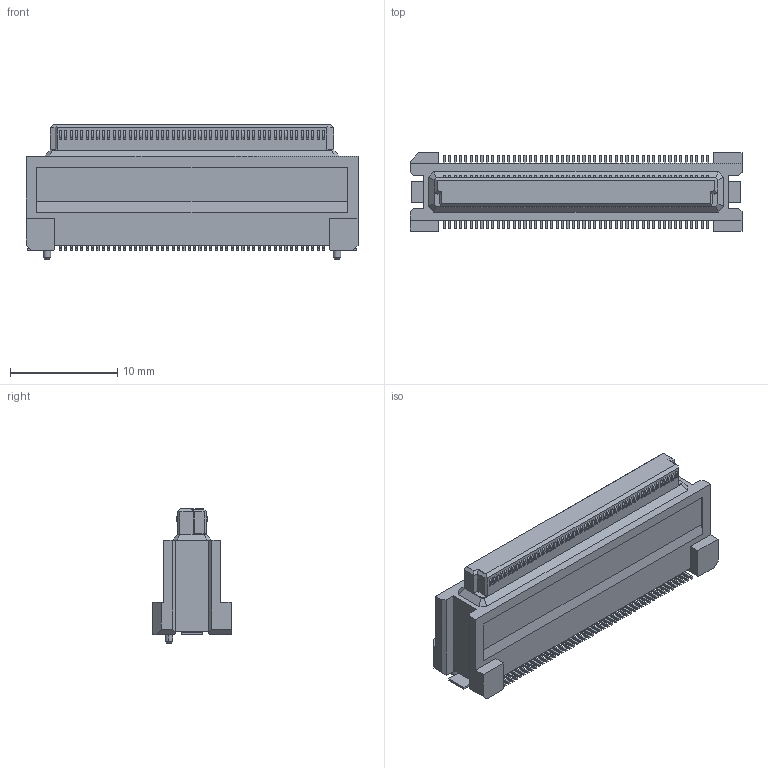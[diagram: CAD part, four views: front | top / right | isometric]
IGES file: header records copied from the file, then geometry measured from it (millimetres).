
Start section: Elysium IGES Interface
Global section: file name: C:\Users\1354\Desktop\DY11-100FS-3.igs; native system: Creo Elements/Direct Modeling 19.0F  14-Feb-2017; preprocessor: Creo Element/Direct IGES_3D V2.2; author: Unknown; organization: Unknown; date: 20171128.092424; units: millimetre
Bounding box: 30.9 x 7.3 x 12.5 mm (x, y, z)
Volume: 1421.4 mm3; surface area: 1360 mm2
Topology: 1 solids, 1 shells, 1460 faces, 4013 edges, 2662 vertices
Faces by surface type: bspline 1460
